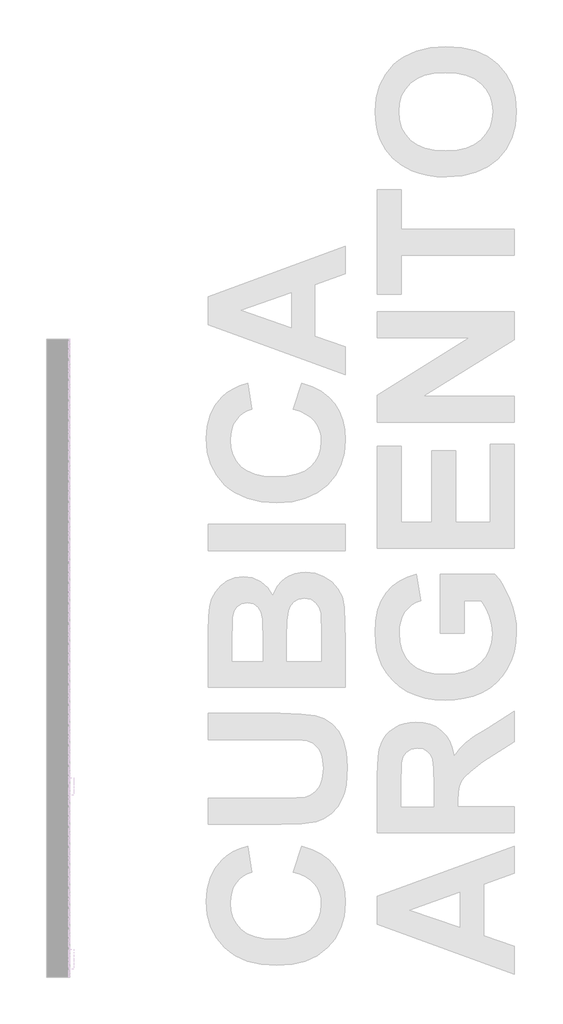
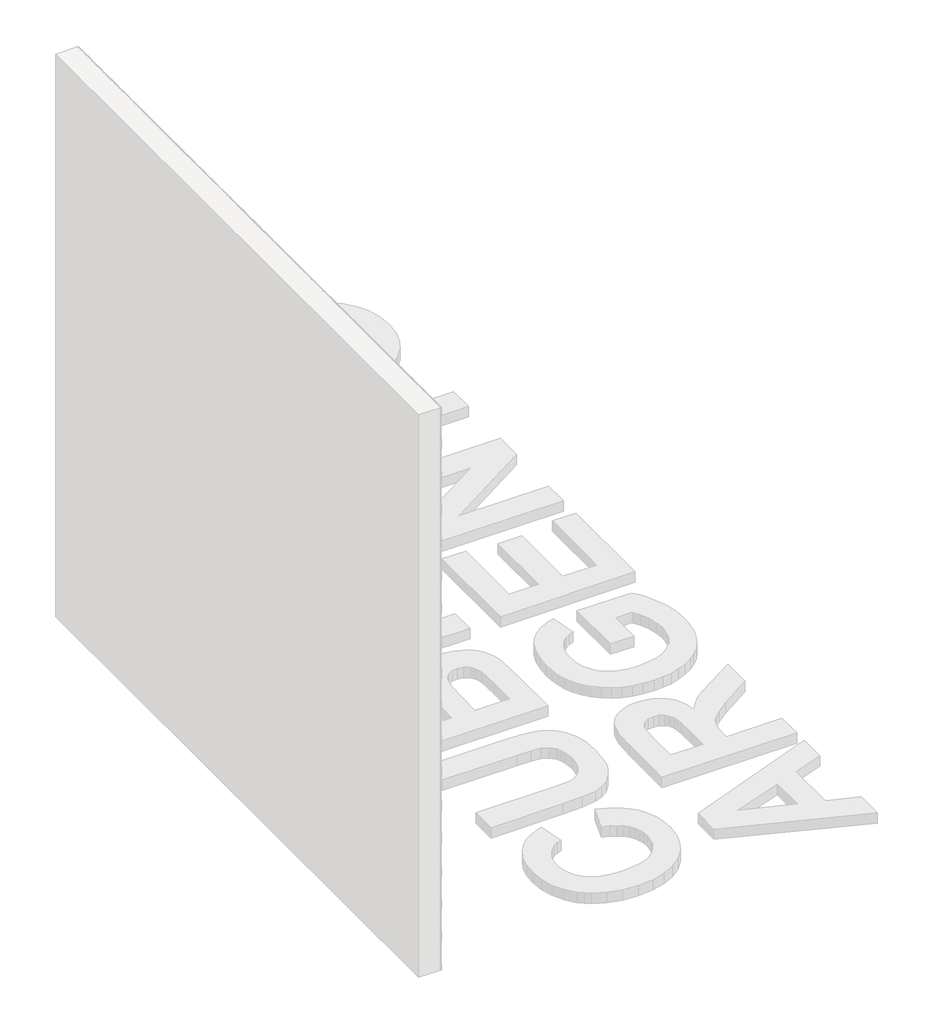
# One storey, part 18 of 121: 145 proxies.
"""IFC4 building model written with IfcOpenShell, lengths in millimetres."""

from ifc_helpers import new_model, si_unit, origin, place, context, project, spatial, transform, mapped, element, save
from components import generic_models_b2b2c5c1, generic_models_9bf73f6f, generic_models_5d175859

model = new_model("IFC4")

# Units and contexts
model_context = context("Model", 3, world=origin())
ifc_project = project(units=[si_unit("LENGTHUNIT", "METRE", prefix="MILLI")], contexts=[model_context])

# Site, building, storey
site = spatial("IfcSite", under=ifc_project)
building = spatial("IfcBuilding", under=site)
storey = spatial("IfcBuildingStorey", under=building, Name="PORTOBELLO - SHOWROOM", Elevation=0.0)

# Proxies
placement = place(None, origin())
generic_models_shape = generic_models_b2b2c5c1(model_context)
element("IfcBuildingElementProxy", 1, Name="PBSHOP - CUBICA ARGENTO 4,8X8,3 : CUBICA ARGENTO - POSIÇÃO 01", ObjectType="PBSHOP - CUBICA ARGENTO 4,8X8,3 : CUBICA ARGENTO - POSIÇÃO 01", at=placement, inside=storey, context=model_context, shape_type="MappedRepresentation", body=[
    mapped(generic_models_shape, transform((150369.5341846, -4859.1846773, 1775.984211), x_axis=(0.0, 1.0, 0.0), y_axis=(0.0, 0.0, 1.0), z_axis=(1.0, 0.0, 0.0))),
])
element("IfcBuildingElementProxy", 2, Name="PBSHOP - CUBICA ARGENTO 4,8X8,3 : CUBICA ARGENTO - POSIÇÃO 01", ObjectType="PBSHOP - CUBICA ARGENTO 4,8X8,3 : CUBICA ARGENTO - POSIÇÃO 01", at=placement, inside=storey, context=model_context, shape_type="MappedRepresentation", body=[
    mapped(generic_models_shape, transform((150369.5341846, -4768.345408, 1775.984211), x_axis=(0.0, 1.0, 0.0), y_axis=(0.0, 0.0, 1.0), z_axis=(1.0, 0.0, 0.0))),
])
element("IfcBuildingElementProxy", 3, Name="PBSHOP - CUBICA ARGENTO 4,8X8,3 : CUBICA ARGENTO - POSIÇÃO 01", ObjectType="PBSHOP - CUBICA ARGENTO 4,8X8,3 : CUBICA ARGENTO - POSIÇÃO 01", at=placement, inside=storey, context=model_context, shape_type="MappedRepresentation", body=[
    mapped(generic_models_shape, transform((150369.5341846, -4677.5061388, 1775.984211), x_axis=(0.0, 1.0, 0.0), y_axis=(0.0, 0.0, 1.0), z_axis=(1.0, 0.0, 0.0))),
])
element("IfcBuildingElementProxy", 4, Name="PBSHOP - CUBICA ARGENTO 4,8X8,3 : CUBICA ARGENTO - POSIÇÃO 01", ObjectType="PBSHOP - CUBICA ARGENTO 4,8X8,3 : CUBICA ARGENTO - POSIÇÃO 01", at=placement, inside=storey, context=model_context, shape_type="MappedRepresentation", body=[
    mapped(generic_models_shape, transform((150369.5341846, -4586.6668696, 1775.984211), x_axis=(0.0, 1.0, 0.0), y_axis=(0.0, 0.0, 1.0), z_axis=(1.0, 0.0, 0.0))),
])
element("IfcBuildingElementProxy", 5, Name="PBSHOP - CUBICA ARGENTO 4,8X8,3 : CUBICA ARGENTO - POSIÇÃO 01", ObjectType="PBSHOP - CUBICA ARGENTO 4,8X8,3 : CUBICA ARGENTO - POSIÇÃO 01", at=placement, inside=storey, context=model_context, shape_type="MappedRepresentation", body=[
    mapped(generic_models_shape, transform((150369.5341846, -4495.8276003, 1775.984211), x_axis=(0.0, 1.0, 0.0), y_axis=(0.0, 0.0, 1.0), z_axis=(1.0, 0.0, 0.0))),
])
element("IfcBuildingElementProxy", 6, Name="PBSHOP - CUBICA ARGENTO 4,8X8,3 : CUBICA ARGENTO - POSIÇÃO 01", ObjectType="PBSHOP - CUBICA ARGENTO 4,8X8,3 : CUBICA ARGENTO - POSIÇÃO 01", at=placement, inside=storey, context=model_context, shape_type="MappedRepresentation", body=[
    mapped(generic_models_shape, transform((150369.5341846, -4404.9883311, 1775.984211), x_axis=(0.0, 1.0, 0.0), y_axis=(0.0, 0.0, 1.0), z_axis=(1.0, 0.0, 0.0))),
])
element("IfcBuildingElementProxy", 7, Name="PBSHOP - CUBICA ARGENTO 4,8X8,3 : CUBICA ARGENTO - POSIÇÃO 01", ObjectType="PBSHOP - CUBICA ARGENTO 4,8X8,3 : CUBICA ARGENTO - POSIÇÃO 01", at=placement, inside=storey, context=model_context, shape_type="MappedRepresentation", body=[
    mapped(generic_models_shape, transform((150369.5341846, -4314.1490618, 1775.984211), x_axis=(0.0, 1.0, 0.0), y_axis=(0.0, 0.0, 1.0), z_axis=(1.0, 0.0, 0.0))),
])
element("IfcBuildingElementProxy", 8, Name="PBSHOP - CUBICA ARGENTO 4,8X8,3 : CUBICA ARGENTO - POSIÇÃO 01", ObjectType="PBSHOP - CUBICA ARGENTO 4,8X8,3 : CUBICA ARGENTO - POSIÇÃO 01", at=placement, inside=storey, context=model_context, shape_type="MappedRepresentation", body=[
    mapped(generic_models_shape, transform((150369.5341846, -4223.3097926, 1775.984211), x_axis=(0.0, 1.0, 0.0), y_axis=(0.0, 0.0, 1.0), z_axis=(1.0, 0.0, 0.0))),
])
element("IfcBuildingElementProxy", 9, Name="PBSHOP - CUBICA ARGENTO 4,8X8,3 : CUBICA ARGENTO - POSIÇÃO 01", ObjectType="PBSHOP - CUBICA ARGENTO 4,8X8,3 : CUBICA ARGENTO - POSIÇÃO 01", at=placement, inside=storey, context=model_context, shape_type="MappedRepresentation", body=[
    mapped(generic_models_shape, transform((150369.5341846, -4132.4705233, 1775.984211), x_axis=(0.0, 1.0, 0.0), y_axis=(0.0, 0.0, 1.0), z_axis=(1.0, 0.0, 0.0))),
])
element("IfcBuildingElementProxy", 10, Name="PBSHOP - CUBICA ARGENTO 4,8X8,3 : CUBICA ARGENTO - POSIÇÃO 01", ObjectType="PBSHOP - CUBICA ARGENTO 4,8X8,3 : CUBICA ARGENTO - POSIÇÃO 01", at=placement, inside=storey, context=model_context, shape_type="MappedRepresentation", body=[
    mapped(generic_models_shape, transform((150369.5341846, -4041.6312541, 1775.984211), x_axis=(0.0, 1.0, 0.0), y_axis=(0.0, 0.0, 1.0), z_axis=(1.0, 0.0, 0.0))),
])
element("IfcBuildingElementProxy", 11, Name="PBSHOP - CUBICA ARGENTO 4,8X8,3 : CUBICA ARGENTO - POSIÇÃO 01", ObjectType="PBSHOP - CUBICA ARGENTO 4,8X8,3 : CUBICA ARGENTO - POSIÇÃO 01", at=placement, inside=storey, context=model_context, shape_type="MappedRepresentation", body=[
    mapped(generic_models_shape, transform((150369.5341846, -4995.4435811, 1854.9188494), x_axis=(0.0, 1.0, 0.0), y_axis=(0.0, 0.0, 1.0), z_axis=(1.0, 0.0, 0.0))),
])
element("IfcBuildingElementProxy", 12, Name="PBSHOP - CUBICA ARGENTO 4,8X8,3 : CUBICA ARGENTO - POSIÇÃO 01", ObjectType="PBSHOP - CUBICA ARGENTO 4,8X8,3 : CUBICA ARGENTO - POSIÇÃO 01", at=placement, inside=storey, context=model_context, shape_type="MappedRepresentation", body=[
    mapped(generic_models_shape, transform((150369.5341846, -4904.6043119, 1854.9188494), x_axis=(0.0, 1.0, 0.0), y_axis=(0.0, 0.0, 1.0), z_axis=(1.0, 0.0, 0.0))),
])
element("IfcBuildingElementProxy", 13, Name="PBSHOP - CUBICA ARGENTO 4,8X8,3 : CUBICA ARGENTO - POSIÇÃO 01", ObjectType="PBSHOP - CUBICA ARGENTO 4,8X8,3 : CUBICA ARGENTO - POSIÇÃO 01", at=placement, inside=storey, context=model_context, shape_type="MappedRepresentation", body=[
    mapped(generic_models_shape, transform((150369.5341846, -4813.7650427, 1854.9188494), x_axis=(0.0, 1.0, 0.0), y_axis=(0.0, 0.0, 1.0), z_axis=(1.0, 0.0, 0.0))),
])
element("IfcBuildingElementProxy", 14, Name="PBSHOP - CUBICA ARGENTO 4,8X8,3 : CUBICA ARGENTO - POSIÇÃO 01", ObjectType="PBSHOP - CUBICA ARGENTO 4,8X8,3 : CUBICA ARGENTO - POSIÇÃO 01", at=placement, inside=storey, context=model_context, shape_type="MappedRepresentation", body=[
    mapped(generic_models_shape, transform((150369.5341846, -4722.9257734, 1854.9188494), x_axis=(0.0, 1.0, 0.0), y_axis=(0.0, 0.0, 1.0), z_axis=(1.0, 0.0, 0.0))),
])
element("IfcBuildingElementProxy", 15, Name="PBSHOP - CUBICA ARGENTO 4,8X8,3 : CUBICA ARGENTO - POSIÇÃO 01", ObjectType="PBSHOP - CUBICA ARGENTO 4,8X8,3 : CUBICA ARGENTO - POSIÇÃO 01", at=placement, inside=storey, context=model_context, shape_type="MappedRepresentation", body=[
    mapped(generic_models_shape, transform((150369.5341846, -4632.0865042, 1854.9188494), x_axis=(0.0, 1.0, 0.0), y_axis=(0.0, 0.0, 1.0), z_axis=(1.0, 0.0, 0.0))),
])
element("IfcBuildingElementProxy", 16, Name="PBSHOP - CUBICA ARGENTO 4,8X8,3 : CUBICA ARGENTO - POSIÇÃO 01", ObjectType="PBSHOP - CUBICA ARGENTO 4,8X8,3 : CUBICA ARGENTO - POSIÇÃO 01", at=placement, inside=storey, context=model_context, shape_type="MappedRepresentation", body=[
    mapped(generic_models_shape, transform((150369.5341846, -4541.2472349, 1854.9188494), x_axis=(0.0, 1.0, 0.0), y_axis=(0.0, 0.0, 1.0), z_axis=(1.0, 0.0, 0.0))),
])
element("IfcBuildingElementProxy", 17, Name="PBSHOP - CUBICA ARGENTO 4,8X8,3 : CUBICA ARGENTO - POSIÇÃO 01", ObjectType="PBSHOP - CUBICA ARGENTO 4,8X8,3 : CUBICA ARGENTO - POSIÇÃO 01", at=placement, inside=storey, context=model_context, shape_type="MappedRepresentation", body=[
    mapped(generic_models_shape, transform((150369.5341846, -4450.4079657, 1854.9188494), x_axis=(0.0, 1.0, 0.0), y_axis=(0.0, 0.0, 1.0), z_axis=(1.0, 0.0, 0.0))),
])
element("IfcBuildingElementProxy", 18, Name="PBSHOP - CUBICA ARGENTO 4,8X8,3 : CUBICA ARGENTO - POSIÇÃO 01", ObjectType="PBSHOP - CUBICA ARGENTO 4,8X8,3 : CUBICA ARGENTO - POSIÇÃO 01", at=placement, inside=storey, context=model_context, shape_type="MappedRepresentation", body=[
    mapped(generic_models_shape, transform((150369.5341846, -4359.5686964, 1854.9188494), x_axis=(0.0, 1.0, 0.0), y_axis=(0.0, 0.0, 1.0), z_axis=(1.0, 0.0, 0.0))),
])
element("IfcBuildingElementProxy", 19, Name="PBSHOP - CUBICA ARGENTO 4,8X8,3 : CUBICA ARGENTO - POSIÇÃO 01", ObjectType="PBSHOP - CUBICA ARGENTO 4,8X8,3 : CUBICA ARGENTO - POSIÇÃO 01", at=placement, inside=storey, context=model_context, shape_type="MappedRepresentation", body=[
    mapped(generic_models_shape, transform((150369.5341846, -4268.7294272, 1854.9188494), x_axis=(0.0, 1.0, 0.0), y_axis=(0.0, 0.0, 1.0), z_axis=(1.0, 0.0, 0.0))),
])
element("IfcBuildingElementProxy", 20, Name="PBSHOP - CUBICA ARGENTO 4,8X8,3 : CUBICA ARGENTO - POSIÇÃO 01", ObjectType="PBSHOP - CUBICA ARGENTO 4,8X8,3 : CUBICA ARGENTO - POSIÇÃO 01", at=placement, inside=storey, context=model_context, shape_type="MappedRepresentation", body=[
    mapped(generic_models_shape, transform((150369.5341846, -4177.890158, 1854.9188494), x_axis=(0.0, 1.0, 0.0), y_axis=(0.0, 0.0, 1.0), z_axis=(1.0, 0.0, 0.0))),
])
element("IfcBuildingElementProxy", 21, Name="PBSHOP - CUBICA ARGENTO 4,8X8,3 : CUBICA ARGENTO - POSIÇÃO 01", ObjectType="PBSHOP - CUBICA ARGENTO 4,8X8,3 : CUBICA ARGENTO - POSIÇÃO 01", at=placement, inside=storey, context=model_context, shape_type="MappedRepresentation", body=[
    mapped(generic_models_shape, transform((150369.5341846, -4087.0508887, 1854.9188494), x_axis=(0.0, 1.0, 0.0), y_axis=(0.0, 0.0, 1.0), z_axis=(1.0, 0.0, 0.0))),
])
element("IfcBuildingElementProxy", 22, Name="PBSHOP - CUBICA ARGENTO 4,8X8,3 : CUBICA ARGENTO - POSIÇÃO 01", ObjectType="PBSHOP - CUBICA ARGENTO 4,8X8,3 : CUBICA ARGENTO - POSIÇÃO 01", at=placement, inside=storey, context=model_context, shape_type="MappedRepresentation", body=[
    mapped(generic_models_shape, transform((150369.5341846, -4950.0239465, 1933.8534878), x_axis=(0.0, 1.0, 0.0), y_axis=(0.0, 0.0, 1.0), z_axis=(1.0, 0.0, 0.0))),
])
element("IfcBuildingElementProxy", 23, Name="PBSHOP - CUBICA ARGENTO 4,8X8,3 : CUBICA ARGENTO - POSIÇÃO 01", ObjectType="PBSHOP - CUBICA ARGENTO 4,8X8,3 : CUBICA ARGENTO - POSIÇÃO 01", at=placement, inside=storey, context=model_context, shape_type="MappedRepresentation", body=[
    mapped(generic_models_shape, transform((150369.5341846, -4859.1846773, 1933.8534878), x_axis=(0.0, 1.0, 0.0), y_axis=(0.0, 0.0, 1.0), z_axis=(1.0, 0.0, 0.0))),
])
element("IfcBuildingElementProxy", 24, Name="PBSHOP - CUBICA ARGENTO 4,8X8,3 : CUBICA ARGENTO - POSIÇÃO 01", ObjectType="PBSHOP - CUBICA ARGENTO 4,8X8,3 : CUBICA ARGENTO - POSIÇÃO 01", at=placement, inside=storey, context=model_context, shape_type="MappedRepresentation", body=[
    mapped(generic_models_shape, transform((150369.5341846, -4768.345408, 1933.8534878), x_axis=(0.0, 1.0, 0.0), y_axis=(0.0, 0.0, 1.0), z_axis=(1.0, 0.0, 0.0))),
])
element("IfcBuildingElementProxy", 25, Name="PBSHOP - CUBICA ARGENTO 4,8X8,3 : CUBICA ARGENTO - POSIÇÃO 01", ObjectType="PBSHOP - CUBICA ARGENTO 4,8X8,3 : CUBICA ARGENTO - POSIÇÃO 01", at=placement, inside=storey, context=model_context, shape_type="MappedRepresentation", body=[
    mapped(generic_models_shape, transform((150369.5341846, -4677.5061388, 1933.8534878), x_axis=(0.0, 1.0, 0.0), y_axis=(0.0, 0.0, 1.0), z_axis=(1.0, 0.0, 0.0))),
])
element("IfcBuildingElementProxy", 26, Name="PBSHOP - CUBICA ARGENTO 4,8X8,3 : CUBICA ARGENTO - POSIÇÃO 01", ObjectType="PBSHOP - CUBICA ARGENTO 4,8X8,3 : CUBICA ARGENTO - POSIÇÃO 01", at=placement, inside=storey, context=model_context, shape_type="MappedRepresentation", body=[
    mapped(generic_models_shape, transform((150369.5341846, -4586.6668696, 1933.8534878), x_axis=(0.0, 1.0, 0.0), y_axis=(0.0, 0.0, 1.0), z_axis=(1.0, 0.0, 0.0))),
])
element("IfcBuildingElementProxy", 27, Name="PBSHOP - CUBICA ARGENTO 4,8X8,3 : CUBICA ARGENTO - POSIÇÃO 01", ObjectType="PBSHOP - CUBICA ARGENTO 4,8X8,3 : CUBICA ARGENTO - POSIÇÃO 01", at=placement, inside=storey, context=model_context, shape_type="MappedRepresentation", body=[
    mapped(generic_models_shape, transform((150369.5341846, -4495.8276003, 1933.8534878), x_axis=(0.0, 1.0, 0.0), y_axis=(0.0, 0.0, 1.0), z_axis=(1.0, 0.0, 0.0))),
])
element("IfcBuildingElementProxy", 28, Name="PBSHOP - CUBICA ARGENTO 4,8X8,3 : CUBICA ARGENTO - POSIÇÃO 01", ObjectType="PBSHOP - CUBICA ARGENTO 4,8X8,3 : CUBICA ARGENTO - POSIÇÃO 01", at=placement, inside=storey, context=model_context, shape_type="MappedRepresentation", body=[
    mapped(generic_models_shape, transform((150369.5341846, -4404.9883311, 1933.8534878), x_axis=(0.0, 1.0, 0.0), y_axis=(0.0, 0.0, 1.0), z_axis=(1.0, 0.0, 0.0))),
])
element("IfcBuildingElementProxy", 29, Name="PBSHOP - CUBICA ARGENTO 4,8X8,3 : CUBICA ARGENTO - POSIÇÃO 01", ObjectType="PBSHOP - CUBICA ARGENTO 4,8X8,3 : CUBICA ARGENTO - POSIÇÃO 01", at=placement, inside=storey, context=model_context, shape_type="MappedRepresentation", body=[
    mapped(generic_models_shape, transform((150369.5341846, -4314.1490618, 1933.8534878), x_axis=(0.0, 1.0, 0.0), y_axis=(0.0, 0.0, 1.0), z_axis=(1.0, 0.0, 0.0))),
])
element("IfcBuildingElementProxy", 30, Name="PBSHOP - CUBICA ARGENTO 4,8X8,3 : CUBICA ARGENTO - POSIÇÃO 01", ObjectType="PBSHOP - CUBICA ARGENTO 4,8X8,3 : CUBICA ARGENTO - POSIÇÃO 01", at=placement, inside=storey, context=model_context, shape_type="MappedRepresentation", body=[
    mapped(generic_models_shape, transform((150369.5341846, -4223.3097926, 1933.8534878), x_axis=(0.0, 1.0, 0.0), y_axis=(0.0, 0.0, 1.0), z_axis=(1.0, 0.0, 0.0))),
])
element("IfcBuildingElementProxy", 31, Name="PBSHOP - CUBICA ARGENTO 4,8X8,3 : CUBICA ARGENTO - POSIÇÃO 01", ObjectType="PBSHOP - CUBICA ARGENTO 4,8X8,3 : CUBICA ARGENTO - POSIÇÃO 01", at=placement, inside=storey, context=model_context, shape_type="MappedRepresentation", body=[
    mapped(generic_models_shape, transform((150369.5341846, -4132.4705233, 1933.8534878), x_axis=(0.0, 1.0, 0.0), y_axis=(0.0, 0.0, 1.0), z_axis=(1.0, 0.0, 0.0))),
])
element("IfcBuildingElementProxy", 32, Name="PBSHOP - CUBICA ARGENTO 4,8X8,3 : CUBICA ARGENTO - POSIÇÃO 01", ObjectType="PBSHOP - CUBICA ARGENTO 4,8X8,3 : CUBICA ARGENTO - POSIÇÃO 01", at=placement, inside=storey, context=model_context, shape_type="MappedRepresentation", body=[
    mapped(generic_models_shape, transform((150369.5341846, -4041.6312541, 1933.8534878), x_axis=(0.0, 1.0, 0.0), y_axis=(0.0, 0.0, 1.0), z_axis=(1.0, 0.0, 0.0))),
])
element("IfcBuildingElementProxy", 33, Name="PBSHOP - CUBICA ARGENTO 4,8X8,3 : CUBICA ARGENTO - POSIÇÃO 01", ObjectType="PBSHOP - CUBICA ARGENTO 4,8X8,3 : CUBICA ARGENTO - POSIÇÃO 01", at=placement, inside=storey, context=model_context, shape_type="MappedRepresentation", body=[
    mapped(generic_models_shape, transform((150369.5341846, -4995.4435811, 2012.7881262), x_axis=(0.0, 1.0, 0.0), y_axis=(0.0, 0.0, 1.0), z_axis=(1.0, 0.0, 0.0))),
])
element("IfcBuildingElementProxy", 34, Name="PBSHOP - CUBICA ARGENTO 4,8X8,3 : CUBICA ARGENTO - POSIÇÃO 01", ObjectType="PBSHOP - CUBICA ARGENTO 4,8X8,3 : CUBICA ARGENTO - POSIÇÃO 01", at=placement, inside=storey, context=model_context, shape_type="MappedRepresentation", body=[
    mapped(generic_models_shape, transform((150369.5341846, -4904.6043119, 2012.7881262), x_axis=(0.0, 1.0, 0.0), y_axis=(0.0, 0.0, 1.0), z_axis=(1.0, 0.0, 0.0))),
])
element("IfcBuildingElementProxy", 35, Name="PBSHOP - CUBICA ARGENTO 4,8X8,3 : CUBICA ARGENTO - POSIÇÃO 01", ObjectType="PBSHOP - CUBICA ARGENTO 4,8X8,3 : CUBICA ARGENTO - POSIÇÃO 01", at=placement, inside=storey, context=model_context, shape_type="MappedRepresentation", body=[
    mapped(generic_models_shape, transform((150369.5341846, -4813.7650427, 2012.7881262), x_axis=(0.0, 1.0, 0.0), y_axis=(0.0, 0.0, 1.0), z_axis=(1.0, 0.0, 0.0))),
])
element("IfcBuildingElementProxy", 36, Name="PBSHOP - CUBICA ARGENTO 4,8X8,3 : CUBICA ARGENTO - POSIÇÃO 01", ObjectType="PBSHOP - CUBICA ARGENTO 4,8X8,3 : CUBICA ARGENTO - POSIÇÃO 01", at=placement, inside=storey, context=model_context, shape_type="MappedRepresentation", body=[
    mapped(generic_models_shape, transform((150369.5341846, -4722.9257734, 2012.7881262), x_axis=(0.0, 1.0, 0.0), y_axis=(0.0, 0.0, 1.0), z_axis=(1.0, 0.0, 0.0))),
])
element("IfcBuildingElementProxy", 37, Name="PBSHOP - CUBICA ARGENTO 4,8X8,3 : CUBICA ARGENTO - POSIÇÃO 01", ObjectType="PBSHOP - CUBICA ARGENTO 4,8X8,3 : CUBICA ARGENTO - POSIÇÃO 01", at=placement, inside=storey, context=model_context, shape_type="MappedRepresentation", body=[
    mapped(generic_models_shape, transform((150369.5341846, -4632.0865042, 2012.7881262), x_axis=(0.0, 1.0, 0.0), y_axis=(0.0, 0.0, 1.0), z_axis=(1.0, 0.0, 0.0))),
])
element("IfcBuildingElementProxy", 38, Name="PBSHOP - CUBICA ARGENTO 4,8X8,3 : CUBICA ARGENTO - POSIÇÃO 01", ObjectType="PBSHOP - CUBICA ARGENTO 4,8X8,3 : CUBICA ARGENTO - POSIÇÃO 01", at=placement, inside=storey, context=model_context, shape_type="MappedRepresentation", body=[
    mapped(generic_models_shape, transform((150369.5341846, -4541.2472349, 2012.7881262), x_axis=(0.0, 1.0, 0.0), y_axis=(0.0, 0.0, 1.0), z_axis=(1.0, 0.0, 0.0))),
])
element("IfcBuildingElementProxy", 39, Name="PBSHOP - CUBICA ARGENTO 4,8X8,3 : CUBICA ARGENTO - POSIÇÃO 01", ObjectType="PBSHOP - CUBICA ARGENTO 4,8X8,3 : CUBICA ARGENTO - POSIÇÃO 01", at=placement, inside=storey, context=model_context, shape_type="MappedRepresentation", body=[
    mapped(generic_models_shape, transform((150369.5341846, -4450.4079657, 2012.7881262), x_axis=(0.0, 1.0, 0.0), y_axis=(0.0, 0.0, 1.0), z_axis=(1.0, 0.0, 0.0))),
])
element("IfcBuildingElementProxy", 40, Name="PBSHOP - CUBICA ARGENTO 4,8X8,3 : CUBICA ARGENTO - POSIÇÃO 01", ObjectType="PBSHOP - CUBICA ARGENTO 4,8X8,3 : CUBICA ARGENTO - POSIÇÃO 01", at=placement, inside=storey, context=model_context, shape_type="MappedRepresentation", body=[
    mapped(generic_models_shape, transform((150369.5341846, -4359.5686964, 2012.7881262), x_axis=(0.0, 1.0, 0.0), y_axis=(0.0, 0.0, 1.0), z_axis=(1.0, 0.0, 0.0))),
])
element("IfcBuildingElementProxy", 41, Name="PBSHOP - CUBICA ARGENTO 4,8X8,3 : CUBICA ARGENTO - POSIÇÃO 01", ObjectType="PBSHOP - CUBICA ARGENTO 4,8X8,3 : CUBICA ARGENTO - POSIÇÃO 01", at=placement, inside=storey, context=model_context, shape_type="MappedRepresentation", body=[
    mapped(generic_models_shape, transform((150369.5341846, -4268.7294272, 2012.7881262), x_axis=(0.0, 1.0, 0.0), y_axis=(0.0, 0.0, 1.0), z_axis=(1.0, 0.0, 0.0))),
])
element("IfcBuildingElementProxy", 42, Name="PBSHOP - CUBICA ARGENTO 4,8X8,3 : CUBICA ARGENTO - POSIÇÃO 01", ObjectType="PBSHOP - CUBICA ARGENTO 4,8X8,3 : CUBICA ARGENTO - POSIÇÃO 01", at=placement, inside=storey, context=model_context, shape_type="MappedRepresentation", body=[
    mapped(generic_models_shape, transform((150369.5341846, -4177.890158, 2012.7881262), x_axis=(0.0, 1.0, 0.0), y_axis=(0.0, 0.0, 1.0), z_axis=(1.0, 0.0, 0.0))),
])
element("IfcBuildingElementProxy", 43, Name="PBSHOP - CUBICA ARGENTO 4,8X8,3 : CUBICA ARGENTO - POSIÇÃO 01", ObjectType="PBSHOP - CUBICA ARGENTO 4,8X8,3 : CUBICA ARGENTO - POSIÇÃO 01", at=placement, inside=storey, context=model_context, shape_type="MappedRepresentation", body=[
    mapped(generic_models_shape, transform((150369.5341846, -4087.0508887, 2012.7881262), x_axis=(0.0, 1.0, 0.0), y_axis=(0.0, 0.0, 1.0), z_axis=(1.0, 0.0, 0.0))),
])
element("IfcBuildingElementProxy", 44, Name="PBSHOP - CUBICA ARGENTO 4,8X8,3 : CUBICA ARGENTO - POSIÇÃO 01", ObjectType="PBSHOP - CUBICA ARGENTO 4,8X8,3 : CUBICA ARGENTO - POSIÇÃO 01", at=placement, inside=storey, context=model_context, shape_type="MappedRepresentation", body=[
    mapped(generic_models_shape, transform((150369.5341846, -4950.0239465, 2091.7227645), x_axis=(0.0, 1.0, 0.0), y_axis=(0.0, 0.0, 1.0), z_axis=(1.0, 0.0, 0.0))),
])
element("IfcBuildingElementProxy", 45, Name="PBSHOP - CUBICA ARGENTO 4,8X8,3 : CUBICA ARGENTO - POSIÇÃO 01", ObjectType="PBSHOP - CUBICA ARGENTO 4,8X8,3 : CUBICA ARGENTO - POSIÇÃO 01", at=placement, inside=storey, context=model_context, shape_type="MappedRepresentation", body=[
    mapped(generic_models_shape, transform((150369.5341846, -4859.1846773, 2091.7227645), x_axis=(0.0, 1.0, 0.0), y_axis=(0.0, 0.0, 1.0), z_axis=(1.0, 0.0, 0.0))),
])
element("IfcBuildingElementProxy", 46, Name="PBSHOP - CUBICA ARGENTO 4,8X8,3 : CUBICA ARGENTO - POSIÇÃO 01", ObjectType="PBSHOP - CUBICA ARGENTO 4,8X8,3 : CUBICA ARGENTO - POSIÇÃO 01", at=placement, inside=storey, context=model_context, shape_type="MappedRepresentation", body=[
    mapped(generic_models_shape, transform((150369.5341846, -4768.345408, 2091.7227645), x_axis=(0.0, 1.0, 0.0), y_axis=(0.0, 0.0, 1.0), z_axis=(1.0, 0.0, 0.0))),
])
element("IfcBuildingElementProxy", 47, Name="PBSHOP - CUBICA ARGENTO 4,8X8,3 : CUBICA ARGENTO - POSIÇÃO 01", ObjectType="PBSHOP - CUBICA ARGENTO 4,8X8,3 : CUBICA ARGENTO - POSIÇÃO 01", at=placement, inside=storey, context=model_context, shape_type="MappedRepresentation", body=[
    mapped(generic_models_shape, transform((150369.5341846, -4677.5061388, 2091.7227645), x_axis=(0.0, 1.0, 0.0), y_axis=(0.0, 0.0, 1.0), z_axis=(1.0, 0.0, 0.0))),
])
element("IfcBuildingElementProxy", 48, Name="PBSHOP - CUBICA ARGENTO 4,8X8,3 : CUBICA ARGENTO - POSIÇÃO 01", ObjectType="PBSHOP - CUBICA ARGENTO 4,8X8,3 : CUBICA ARGENTO - POSIÇÃO 01", at=placement, inside=storey, context=model_context, shape_type="MappedRepresentation", body=[
    mapped(generic_models_shape, transform((150369.5341846, -4586.6668696, 2091.7227645), x_axis=(0.0, 1.0, 0.0), y_axis=(0.0, 0.0, 1.0), z_axis=(1.0, 0.0, 0.0))),
])
element("IfcBuildingElementProxy", 49, Name="PBSHOP - CUBICA ARGENTO 4,8X8,3 : CUBICA ARGENTO - POSIÇÃO 01", ObjectType="PBSHOP - CUBICA ARGENTO 4,8X8,3 : CUBICA ARGENTO - POSIÇÃO 01", at=placement, inside=storey, context=model_context, shape_type="MappedRepresentation", body=[
    mapped(generic_models_shape, transform((150369.5341846, -4495.8276003, 2091.7227645), x_axis=(0.0, 1.0, 0.0), y_axis=(0.0, 0.0, 1.0), z_axis=(1.0, 0.0, 0.0))),
])
element("IfcBuildingElementProxy", 50, Name="PBSHOP - CUBICA ARGENTO 4,8X8,3 : CUBICA ARGENTO - POSIÇÃO 01", ObjectType="PBSHOP - CUBICA ARGENTO 4,8X8,3 : CUBICA ARGENTO - POSIÇÃO 01", at=placement, inside=storey, context=model_context, shape_type="MappedRepresentation", body=[
    mapped(generic_models_shape, transform((150369.5341846, -4404.9883311, 2091.7227645), x_axis=(0.0, 1.0, 0.0), y_axis=(0.0, 0.0, 1.0), z_axis=(1.0, 0.0, 0.0))),
])
element("IfcBuildingElementProxy", 51, Name="PBSHOP - CUBICA ARGENTO 4,8X8,3 : CUBICA ARGENTO - POSIÇÃO 01", ObjectType="PBSHOP - CUBICA ARGENTO 4,8X8,3 : CUBICA ARGENTO - POSIÇÃO 01", at=placement, inside=storey, context=model_context, shape_type="MappedRepresentation", body=[
    mapped(generic_models_shape, transform((150369.5341846, -4314.1490618, 2091.7227645), x_axis=(0.0, 1.0, 0.0), y_axis=(0.0, 0.0, 1.0), z_axis=(1.0, 0.0, 0.0))),
])
generic_models_2_shape = generic_models_9bf73f6f(model_context)
element("IfcBuildingElementProxy", 52, Name="PBSHOP - CUBICA ARGENTO 4,8X8,3 : CUBICA ARGENTO - POSIÇÃO 03", ObjectType="PBSHOP - CUBICA ARGENTO 4,8X8,3 : CUBICA ARGENTO - POSIÇÃO 03", at=placement, inside=storey, context=model_context, shape_type="MappedRepresentation", body=[
    mapped(generic_models_2_shape, transform((150369.5341846, -4972.7316047, 1736.4756814), x_axis=(0.0, 1.0, 0.0), y_axis=(0.0, 0.0, 1.0), z_axis=(1.0, 0.0, 0.0))),
])
element("IfcBuildingElementProxy", 53, Name="PBSHOP - CUBICA ARGENTO 4,8X8,3 : CUBICA ARGENTO - POSIÇÃO 03", ObjectType="PBSHOP - CUBICA ARGENTO 4,8X8,3 : CUBICA ARGENTO - POSIÇÃO 03", at=placement, inside=storey, context=model_context, shape_type="MappedRepresentation", body=[
    mapped(generic_models_2_shape, transform((150369.5341846, -4881.8923354, 1736.4756814), x_axis=(0.0, 1.0, 0.0), y_axis=(0.0, 0.0, 1.0), z_axis=(1.0, 0.0, 0.0))),
])
element("IfcBuildingElementProxy", 54, Name="PBSHOP - CUBICA ARGENTO 4,8X8,3 : CUBICA ARGENTO - POSIÇÃO 03", ObjectType="PBSHOP - CUBICA ARGENTO 4,8X8,3 : CUBICA ARGENTO - POSIÇÃO 03", at=placement, inside=storey, context=model_context, shape_type="MappedRepresentation", body=[
    mapped(generic_models_2_shape, transform((150369.5341846, -4791.0530662, 1736.4756814), x_axis=(0.0, 1.0, 0.0), y_axis=(0.0, 0.0, 1.0), z_axis=(1.0, 0.0, 0.0))),
])
element("IfcBuildingElementProxy", 55, Name="PBSHOP - CUBICA ARGENTO 4,8X8,3 : CUBICA ARGENTO - POSIÇÃO 03", ObjectType="PBSHOP - CUBICA ARGENTO 4,8X8,3 : CUBICA ARGENTO - POSIÇÃO 03", at=placement, inside=storey, context=model_context, shape_type="MappedRepresentation", body=[
    mapped(generic_models_2_shape, transform((150369.5341846, -4700.2137969, 1736.4756814), x_axis=(0.0, 1.0, 0.0), y_axis=(0.0, 0.0, 1.0), z_axis=(1.0, 0.0, 0.0))),
])
element("IfcBuildingElementProxy", 56, Name="PBSHOP - CUBICA ARGENTO 4,8X8,3 : CUBICA ARGENTO - POSIÇÃO 03", ObjectType="PBSHOP - CUBICA ARGENTO 4,8X8,3 : CUBICA ARGENTO - POSIÇÃO 03", at=placement, inside=storey, context=model_context, shape_type="MappedRepresentation", body=[
    mapped(generic_models_2_shape, transform((150369.5341846, -4609.3745277, 1736.4756814), x_axis=(0.0, 1.0, 0.0), y_axis=(0.0, 0.0, 1.0), z_axis=(1.0, 0.0, 0.0))),
])
element("IfcBuildingElementProxy", 57, Name="PBSHOP - CUBICA ARGENTO 4,8X8,3 : CUBICA ARGENTO - POSIÇÃO 03", ObjectType="PBSHOP - CUBICA ARGENTO 4,8X8,3 : CUBICA ARGENTO - POSIÇÃO 03", at=placement, inside=storey, context=model_context, shape_type="MappedRepresentation", body=[
    mapped(generic_models_2_shape, transform((150369.5341846, -4518.5352585, 1736.4756814), x_axis=(0.0, 1.0, 0.0), y_axis=(0.0, 0.0, 1.0), z_axis=(1.0, 0.0, 0.0))),
])
element("IfcBuildingElementProxy", 58, Name="PBSHOP - CUBICA ARGENTO 4,8X8,3 : CUBICA ARGENTO - POSIÇÃO 03", ObjectType="PBSHOP - CUBICA ARGENTO 4,8X8,3 : CUBICA ARGENTO - POSIÇÃO 03", at=placement, inside=storey, context=model_context, shape_type="MappedRepresentation", body=[
    mapped(generic_models_2_shape, transform((150369.5341846, -4427.6959892, 1736.4756814), x_axis=(0.0, 1.0, 0.0), y_axis=(0.0, 0.0, 1.0), z_axis=(1.0, 0.0, 0.0))),
])
element("IfcBuildingElementProxy", 59, Name="PBSHOP - CUBICA ARGENTO 4,8X8,3 : CUBICA ARGENTO - POSIÇÃO 03", ObjectType="PBSHOP - CUBICA ARGENTO 4,8X8,3 : CUBICA ARGENTO - POSIÇÃO 03", at=placement, inside=storey, context=model_context, shape_type="MappedRepresentation", body=[
    mapped(generic_models_2_shape, transform((150369.5341846, -4336.85672, 1736.4756814), x_axis=(0.0, 1.0, 0.0), y_axis=(0.0, 0.0, 1.0), z_axis=(1.0, 0.0, 0.0))),
])
element("IfcBuildingElementProxy", 60, Name="PBSHOP - CUBICA ARGENTO 4,8X8,3 : CUBICA ARGENTO - POSIÇÃO 03", ObjectType="PBSHOP - CUBICA ARGENTO 4,8X8,3 : CUBICA ARGENTO - POSIÇÃO 03", at=placement, inside=storey, context=model_context, shape_type="MappedRepresentation", body=[
    mapped(generic_models_2_shape, transform((150369.5341846, -4246.0174507, 1736.4756814), x_axis=(0.0, 1.0, 0.0), y_axis=(0.0, 0.0, 1.0), z_axis=(1.0, 0.0, 0.0))),
])
element("IfcBuildingElementProxy", 61, Name="PBSHOP - CUBICA ARGENTO 4,8X8,3 : CUBICA ARGENTO - POSIÇÃO 03", ObjectType="PBSHOP - CUBICA ARGENTO 4,8X8,3 : CUBICA ARGENTO - POSIÇÃO 03", at=placement, inside=storey, context=model_context, shape_type="MappedRepresentation", body=[
    mapped(generic_models_2_shape, transform((150369.5341846, -4155.1781815, 1736.4756814), x_axis=(0.0, 1.0, 0.0), y_axis=(0.0, 0.0, 1.0), z_axis=(1.0, 0.0, 0.0))),
])
element("IfcBuildingElementProxy", 62, Name="PBSHOP - CUBICA ARGENTO 4,8X8,3 : CUBICA ARGENTO - POSIÇÃO 03", ObjectType="PBSHOP - CUBICA ARGENTO 4,8X8,3 : CUBICA ARGENTO - POSIÇÃO 03", at=placement, inside=storey, context=model_context, shape_type="MappedRepresentation", body=[
    mapped(generic_models_2_shape, transform((150369.5341846, -4064.3389122, 1736.4756814), x_axis=(0.0, 1.0, 0.0), y_axis=(0.0, 0.0, 1.0), z_axis=(1.0, 0.0, 0.0))),
])
element("IfcBuildingElementProxy", 63, Name="PBSHOP - CUBICA ARGENTO 4,8X8,3 : CUBICA ARGENTO - POSIÇÃO 03", ObjectType="PBSHOP - CUBICA ARGENTO 4,8X8,3 : CUBICA ARGENTO - POSIÇÃO 03", at=placement, inside=storey, context=model_context, shape_type="MappedRepresentation", body=[
    mapped(generic_models_2_shape, transform((150369.5341846, -4927.3119701, 1815.4103198), x_axis=(0.0, 1.0, 0.0), y_axis=(0.0, 0.0, 1.0), z_axis=(1.0, 0.0, 0.0))),
])
element("IfcBuildingElementProxy", 64, Name="PBSHOP - CUBICA ARGENTO 4,8X8,3 : CUBICA ARGENTO - POSIÇÃO 03", ObjectType="PBSHOP - CUBICA ARGENTO 4,8X8,3 : CUBICA ARGENTO - POSIÇÃO 03", at=placement, inside=storey, context=model_context, shape_type="MappedRepresentation", body=[
    mapped(generic_models_2_shape, transform((150369.5341846, -4836.4727008, 1815.4103198), x_axis=(0.0, 1.0, 0.0), y_axis=(0.0, 0.0, 1.0), z_axis=(1.0, 0.0, 0.0))),
])
element("IfcBuildingElementProxy", 65, Name="PBSHOP - CUBICA ARGENTO 4,8X8,3 : CUBICA ARGENTO - POSIÇÃO 03", ObjectType="PBSHOP - CUBICA ARGENTO 4,8X8,3 : CUBICA ARGENTO - POSIÇÃO 03", at=placement, inside=storey, context=model_context, shape_type="MappedRepresentation", body=[
    mapped(generic_models_2_shape, transform((150369.5341846, -4745.6334316, 1815.4103198), x_axis=(0.0, 1.0, 0.0), y_axis=(0.0, 0.0, 1.0), z_axis=(1.0, 0.0, 0.0))),
])
element("IfcBuildingElementProxy", 66, Name="PBSHOP - CUBICA ARGENTO 4,8X8,3 : CUBICA ARGENTO - POSIÇÃO 03", ObjectType="PBSHOP - CUBICA ARGENTO 4,8X8,3 : CUBICA ARGENTO - POSIÇÃO 03", at=placement, inside=storey, context=model_context, shape_type="MappedRepresentation", body=[
    mapped(generic_models_2_shape, transform((150369.5341846, -4654.7941623, 1815.4103198), x_axis=(0.0, 1.0, 0.0), y_axis=(0.0, 0.0, 1.0), z_axis=(1.0, 0.0, 0.0))),
])
element("IfcBuildingElementProxy", 67, Name="PBSHOP - CUBICA ARGENTO 4,8X8,3 : CUBICA ARGENTO - POSIÇÃO 03", ObjectType="PBSHOP - CUBICA ARGENTO 4,8X8,3 : CUBICA ARGENTO - POSIÇÃO 03", at=placement, inside=storey, context=model_context, shape_type="MappedRepresentation", body=[
    mapped(generic_models_2_shape, transform((150369.5341846, -4563.9548931, 1815.4103198), x_axis=(0.0, 1.0, 0.0), y_axis=(0.0, 0.0, 1.0), z_axis=(1.0, 0.0, 0.0))),
])
element("IfcBuildingElementProxy", 68, Name="PBSHOP - CUBICA ARGENTO 4,8X8,3 : CUBICA ARGENTO - POSIÇÃO 03", ObjectType="PBSHOP - CUBICA ARGENTO 4,8X8,3 : CUBICA ARGENTO - POSIÇÃO 03", at=placement, inside=storey, context=model_context, shape_type="MappedRepresentation", body=[
    mapped(generic_models_2_shape, transform((150369.5341846, -4473.1156238, 1815.4103198), x_axis=(0.0, 1.0, 0.0), y_axis=(0.0, 0.0, 1.0), z_axis=(1.0, 0.0, 0.0))),
])
element("IfcBuildingElementProxy", 69, Name="PBSHOP - CUBICA ARGENTO 4,8X8,3 : CUBICA ARGENTO - POSIÇÃO 03", ObjectType="PBSHOP - CUBICA ARGENTO 4,8X8,3 : CUBICA ARGENTO - POSIÇÃO 03", at=placement, inside=storey, context=model_context, shape_type="MappedRepresentation", body=[
    mapped(generic_models_2_shape, transform((150369.5341846, -4382.2763546, 1815.4103198), x_axis=(0.0, 1.0, 0.0), y_axis=(0.0, 0.0, 1.0), z_axis=(1.0, 0.0, 0.0))),
])
element("IfcBuildingElementProxy", 70, Name="PBSHOP - CUBICA ARGENTO 4,8X8,3 : CUBICA ARGENTO - POSIÇÃO 03", ObjectType="PBSHOP - CUBICA ARGENTO 4,8X8,3 : CUBICA ARGENTO - POSIÇÃO 03", at=placement, inside=storey, context=model_context, shape_type="MappedRepresentation", body=[
    mapped(generic_models_2_shape, transform((150369.5341846, -4291.4370853, 1815.4103198), x_axis=(0.0, 1.0, 0.0), y_axis=(0.0, 0.0, 1.0), z_axis=(1.0, 0.0, 0.0))),
])
element("IfcBuildingElementProxy", 71, Name="PBSHOP - CUBICA ARGENTO 4,8X8,3 : CUBICA ARGENTO - POSIÇÃO 03", ObjectType="PBSHOP - CUBICA ARGENTO 4,8X8,3 : CUBICA ARGENTO - POSIÇÃO 03", at=placement, inside=storey, context=model_context, shape_type="MappedRepresentation", body=[
    mapped(generic_models_2_shape, transform((150369.5341846, -4200.5978161, 1815.4103198), x_axis=(0.0, 1.0, 0.0), y_axis=(0.0, 0.0, 1.0), z_axis=(1.0, 0.0, 0.0))),
])
element("IfcBuildingElementProxy", 72, Name="PBSHOP - CUBICA ARGENTO 4,8X8,3 : CUBICA ARGENTO - POSIÇÃO 03", ObjectType="PBSHOP - CUBICA ARGENTO 4,8X8,3 : CUBICA ARGENTO - POSIÇÃO 03", at=placement, inside=storey, context=model_context, shape_type="MappedRepresentation", body=[
    mapped(generic_models_2_shape, transform((150369.5341846, -4109.7585469, 1815.4103198), x_axis=(0.0, 1.0, 0.0), y_axis=(0.0, 0.0, 1.0), z_axis=(1.0, 0.0, 0.0))),
])
element("IfcBuildingElementProxy", 73, Name="PBSHOP - CUBICA ARGENTO 4,8X8,3 : CUBICA ARGENTO - POSIÇÃO 03", ObjectType="PBSHOP - CUBICA ARGENTO 4,8X8,3 : CUBICA ARGENTO - POSIÇÃO 03", at=placement, inside=storey, context=model_context, shape_type="MappedRepresentation", body=[
    mapped(generic_models_2_shape, transform((150369.5341846, -4018.9192776, 1815.4103198), x_axis=(0.0, 1.0, 0.0), y_axis=(0.0, 0.0, 1.0), z_axis=(1.0, 0.0, 0.0))),
])
element("IfcBuildingElementProxy", 74, Name="PBSHOP - CUBICA ARGENTO 4,8X8,3 : CUBICA ARGENTO - POSIÇÃO 03", ObjectType="PBSHOP - CUBICA ARGENTO 4,8X8,3 : CUBICA ARGENTO - POSIÇÃO 03", at=placement, inside=storey, context=model_context, shape_type="MappedRepresentation", body=[
    mapped(generic_models_2_shape, transform((150369.5341846, -4972.7316047, 1894.3449582), x_axis=(0.0, 1.0, 0.0), y_axis=(0.0, 0.0, 1.0), z_axis=(1.0, 0.0, 0.0))),
])
element("IfcBuildingElementProxy", 75, Name="PBSHOP - CUBICA ARGENTO 4,8X8,3 : CUBICA ARGENTO - POSIÇÃO 03", ObjectType="PBSHOP - CUBICA ARGENTO 4,8X8,3 : CUBICA ARGENTO - POSIÇÃO 03", at=placement, inside=storey, context=model_context, shape_type="MappedRepresentation", body=[
    mapped(generic_models_2_shape, transform((150369.5341846, -4881.8923354, 1894.3449582), x_axis=(0.0, 1.0, 0.0), y_axis=(0.0, 0.0, 1.0), z_axis=(1.0, 0.0, 0.0))),
])
element("IfcBuildingElementProxy", 76, Name="PBSHOP - CUBICA ARGENTO 4,8X8,3 : CUBICA ARGENTO - POSIÇÃO 03", ObjectType="PBSHOP - CUBICA ARGENTO 4,8X8,3 : CUBICA ARGENTO - POSIÇÃO 03", at=placement, inside=storey, context=model_context, shape_type="MappedRepresentation", body=[
    mapped(generic_models_2_shape, transform((150369.5341846, -4791.0530662, 1894.3449582), x_axis=(0.0, 1.0, 0.0), y_axis=(0.0, 0.0, 1.0), z_axis=(1.0, 0.0, 0.0))),
])
element("IfcBuildingElementProxy", 77, Name="PBSHOP - CUBICA ARGENTO 4,8X8,3 : CUBICA ARGENTO - POSIÇÃO 03", ObjectType="PBSHOP - CUBICA ARGENTO 4,8X8,3 : CUBICA ARGENTO - POSIÇÃO 03", at=placement, inside=storey, context=model_context, shape_type="MappedRepresentation", body=[
    mapped(generic_models_2_shape, transform((150369.5341846, -4700.2137969, 1894.3449582), x_axis=(0.0, 1.0, 0.0), y_axis=(0.0, 0.0, 1.0), z_axis=(1.0, 0.0, 0.0))),
])
element("IfcBuildingElementProxy", 78, Name="PBSHOP - CUBICA ARGENTO 4,8X8,3 : CUBICA ARGENTO - POSIÇÃO 03", ObjectType="PBSHOP - CUBICA ARGENTO 4,8X8,3 : CUBICA ARGENTO - POSIÇÃO 03", at=placement, inside=storey, context=model_context, shape_type="MappedRepresentation", body=[
    mapped(generic_models_2_shape, transform((150369.5341846, -4609.3745277, 1894.3449582), x_axis=(0.0, 1.0, 0.0), y_axis=(0.0, 0.0, 1.0), z_axis=(1.0, 0.0, 0.0))),
])
element("IfcBuildingElementProxy", 79, Name="PBSHOP - CUBICA ARGENTO 4,8X8,3 : CUBICA ARGENTO - POSIÇÃO 03", ObjectType="PBSHOP - CUBICA ARGENTO 4,8X8,3 : CUBICA ARGENTO - POSIÇÃO 03", at=placement, inside=storey, context=model_context, shape_type="MappedRepresentation", body=[
    mapped(generic_models_2_shape, transform((150369.5341846, -4518.5352585, 1894.3449582), x_axis=(0.0, 1.0, 0.0), y_axis=(0.0, 0.0, 1.0), z_axis=(1.0, 0.0, 0.0))),
])
element("IfcBuildingElementProxy", 80, Name="PBSHOP - CUBICA ARGENTO 4,8X8,3 : CUBICA ARGENTO - POSIÇÃO 03", ObjectType="PBSHOP - CUBICA ARGENTO 4,8X8,3 : CUBICA ARGENTO - POSIÇÃO 03", at=placement, inside=storey, context=model_context, shape_type="MappedRepresentation", body=[
    mapped(generic_models_2_shape, transform((150369.5341846, -4427.6959892, 1894.3449582), x_axis=(0.0, 1.0, 0.0), y_axis=(0.0, 0.0, 1.0), z_axis=(1.0, 0.0, 0.0))),
])
element("IfcBuildingElementProxy", 81, Name="PBSHOP - CUBICA ARGENTO 4,8X8,3 : CUBICA ARGENTO - POSIÇÃO 03", ObjectType="PBSHOP - CUBICA ARGENTO 4,8X8,3 : CUBICA ARGENTO - POSIÇÃO 03", at=placement, inside=storey, context=model_context, shape_type="MappedRepresentation", body=[
    mapped(generic_models_2_shape, transform((150369.5341846, -4336.85672, 1894.3449582), x_axis=(0.0, 1.0, 0.0), y_axis=(0.0, 0.0, 1.0), z_axis=(1.0, 0.0, 0.0))),
])
element("IfcBuildingElementProxy", 82, Name="PBSHOP - CUBICA ARGENTO 4,8X8,3 : CUBICA ARGENTO - POSIÇÃO 03", ObjectType="PBSHOP - CUBICA ARGENTO 4,8X8,3 : CUBICA ARGENTO - POSIÇÃO 03", at=placement, inside=storey, context=model_context, shape_type="MappedRepresentation", body=[
    mapped(generic_models_2_shape, transform((150369.5341846, -4246.0174507, 1894.3449582), x_axis=(0.0, 1.0, 0.0), y_axis=(0.0, 0.0, 1.0), z_axis=(1.0, 0.0, 0.0))),
])
element("IfcBuildingElementProxy", 83, Name="PBSHOP - CUBICA ARGENTO 4,8X8,3 : CUBICA ARGENTO - POSIÇÃO 03", ObjectType="PBSHOP - CUBICA ARGENTO 4,8X8,3 : CUBICA ARGENTO - POSIÇÃO 03", at=placement, inside=storey, context=model_context, shape_type="MappedRepresentation", body=[
    mapped(generic_models_2_shape, transform((150369.5341846, -4155.1781815, 1894.3449582), x_axis=(0.0, 1.0, 0.0), y_axis=(0.0, 0.0, 1.0), z_axis=(1.0, 0.0, 0.0))),
])
element("IfcBuildingElementProxy", 84, Name="PBSHOP - CUBICA ARGENTO 4,8X8,3 : CUBICA ARGENTO - POSIÇÃO 03", ObjectType="PBSHOP - CUBICA ARGENTO 4,8X8,3 : CUBICA ARGENTO - POSIÇÃO 03", at=placement, inside=storey, context=model_context, shape_type="MappedRepresentation", body=[
    mapped(generic_models_2_shape, transform((150369.5341846, -4064.3389122, 1894.3449582), x_axis=(0.0, 1.0, 0.0), y_axis=(0.0, 0.0, 1.0), z_axis=(1.0, 0.0, 0.0))),
])
element("IfcBuildingElementProxy", 85, Name="PBSHOP - CUBICA ARGENTO 4,8X8,3 : CUBICA ARGENTO - POSIÇÃO 03", ObjectType="PBSHOP - CUBICA ARGENTO 4,8X8,3 : CUBICA ARGENTO - POSIÇÃO 03", at=placement, inside=storey, context=model_context, shape_type="MappedRepresentation", body=[
    mapped(generic_models_2_shape, transform((150369.5341846, -4927.3119701, 1973.2795966), x_axis=(0.0, 1.0, 0.0), y_axis=(0.0, 0.0, 1.0), z_axis=(1.0, 0.0, 0.0))),
])
element("IfcBuildingElementProxy", 86, Name="PBSHOP - CUBICA ARGENTO 4,8X8,3 : CUBICA ARGENTO - POSIÇÃO 03", ObjectType="PBSHOP - CUBICA ARGENTO 4,8X8,3 : CUBICA ARGENTO - POSIÇÃO 03", at=placement, inside=storey, context=model_context, shape_type="MappedRepresentation", body=[
    mapped(generic_models_2_shape, transform((150369.5341846, -4836.4727008, 1973.2795966), x_axis=(0.0, 1.0, 0.0), y_axis=(0.0, 0.0, 1.0), z_axis=(1.0, 0.0, 0.0))),
])
element("IfcBuildingElementProxy", 87, Name="PBSHOP - CUBICA ARGENTO 4,8X8,3 : CUBICA ARGENTO - POSIÇÃO 03", ObjectType="PBSHOP - CUBICA ARGENTO 4,8X8,3 : CUBICA ARGENTO - POSIÇÃO 03", at=placement, inside=storey, context=model_context, shape_type="MappedRepresentation", body=[
    mapped(generic_models_2_shape, transform((150369.5341846, -4745.6334316, 1973.2795966), x_axis=(0.0, 1.0, 0.0), y_axis=(0.0, 0.0, 1.0), z_axis=(1.0, 0.0, 0.0))),
])
element("IfcBuildingElementProxy", 88, Name="PBSHOP - CUBICA ARGENTO 4,8X8,3 : CUBICA ARGENTO - POSIÇÃO 03", ObjectType="PBSHOP - CUBICA ARGENTO 4,8X8,3 : CUBICA ARGENTO - POSIÇÃO 03", at=placement, inside=storey, context=model_context, shape_type="MappedRepresentation", body=[
    mapped(generic_models_2_shape, transform((150369.5341846, -4654.7941623, 1973.2795966), x_axis=(0.0, 1.0, 0.0), y_axis=(0.0, 0.0, 1.0), z_axis=(1.0, 0.0, 0.0))),
])
element("IfcBuildingElementProxy", 89, Name="PBSHOP - CUBICA ARGENTO 4,8X8,3 : CUBICA ARGENTO - POSIÇÃO 03", ObjectType="PBSHOP - CUBICA ARGENTO 4,8X8,3 : CUBICA ARGENTO - POSIÇÃO 03", at=placement, inside=storey, context=model_context, shape_type="MappedRepresentation", body=[
    mapped(generic_models_2_shape, transform((150369.5341846, -4563.9548931, 1973.2795966), x_axis=(0.0, 1.0, 0.0), y_axis=(0.0, 0.0, 1.0), z_axis=(1.0, 0.0, 0.0))),
])
element("IfcBuildingElementProxy", 90, Name="PBSHOP - CUBICA ARGENTO 4,8X8,3 : CUBICA ARGENTO - POSIÇÃO 03", ObjectType="PBSHOP - CUBICA ARGENTO 4,8X8,3 : CUBICA ARGENTO - POSIÇÃO 03", at=placement, inside=storey, context=model_context, shape_type="MappedRepresentation", body=[
    mapped(generic_models_2_shape, transform((150369.5341846, -4473.1156238, 1973.2795966), x_axis=(0.0, 1.0, 0.0), y_axis=(0.0, 0.0, 1.0), z_axis=(1.0, 0.0, 0.0))),
])
element("IfcBuildingElementProxy", 91, Name="PBSHOP - CUBICA ARGENTO 4,8X8,3 : CUBICA ARGENTO - POSIÇÃO 03", ObjectType="PBSHOP - CUBICA ARGENTO 4,8X8,3 : CUBICA ARGENTO - POSIÇÃO 03", at=placement, inside=storey, context=model_context, shape_type="MappedRepresentation", body=[
    mapped(generic_models_2_shape, transform((150369.5341846, -4382.2763546, 1973.2795966), x_axis=(0.0, 1.0, 0.0), y_axis=(0.0, 0.0, 1.0), z_axis=(1.0, 0.0, 0.0))),
])
element("IfcBuildingElementProxy", 92, Name="PBSHOP - CUBICA ARGENTO 4,8X8,3 : CUBICA ARGENTO - POSIÇÃO 03", ObjectType="PBSHOP - CUBICA ARGENTO 4,8X8,3 : CUBICA ARGENTO - POSIÇÃO 03", at=placement, inside=storey, context=model_context, shape_type="MappedRepresentation", body=[
    mapped(generic_models_2_shape, transform((150369.5341846, -4291.4370853, 1973.2795966), x_axis=(0.0, 1.0, 0.0), y_axis=(0.0, 0.0, 1.0), z_axis=(1.0, 0.0, 0.0))),
])
element("IfcBuildingElementProxy", 93, Name="PBSHOP - CUBICA ARGENTO 4,8X8,3 : CUBICA ARGENTO - POSIÇÃO 03", ObjectType="PBSHOP - CUBICA ARGENTO 4,8X8,3 : CUBICA ARGENTO - POSIÇÃO 03", at=placement, inside=storey, context=model_context, shape_type="MappedRepresentation", body=[
    mapped(generic_models_2_shape, transform((150369.5341846, -4200.5978161, 1973.2795966), x_axis=(0.0, 1.0, 0.0), y_axis=(0.0, 0.0, 1.0), z_axis=(1.0, 0.0, 0.0))),
])
element("IfcBuildingElementProxy", 94, Name="PBSHOP - CUBICA ARGENTO 4,8X8,3 : CUBICA ARGENTO - POSIÇÃO 03", ObjectType="PBSHOP - CUBICA ARGENTO 4,8X8,3 : CUBICA ARGENTO - POSIÇÃO 03", at=placement, inside=storey, context=model_context, shape_type="MappedRepresentation", body=[
    mapped(generic_models_2_shape, transform((150369.5341846, -4109.7585469, 1973.2795966), x_axis=(0.0, 1.0, 0.0), y_axis=(0.0, 0.0, 1.0), z_axis=(1.0, 0.0, 0.0))),
])
element("IfcBuildingElementProxy", 95, Name="PBSHOP - CUBICA ARGENTO 4,8X8,3 : CUBICA ARGENTO - POSIÇÃO 03", ObjectType="PBSHOP - CUBICA ARGENTO 4,8X8,3 : CUBICA ARGENTO - POSIÇÃO 03", at=placement, inside=storey, context=model_context, shape_type="MappedRepresentation", body=[
    mapped(generic_models_2_shape, transform((150369.5341846, -4018.9192776, 1973.2795966), x_axis=(0.0, 1.0, 0.0), y_axis=(0.0, 0.0, 1.0), z_axis=(1.0, 0.0, 0.0))),
])
generic_models_3_shape = generic_models_5d175859(model_context)
element("IfcBuildingElementProxy", 96, Name="PBSHOP - CUBICA ARGENTO 4,8X8,3 : CUBICA ARGENTO - POSIÇÃO 01", ObjectType="PBSHOP - CUBICA ARGENTO 4,8X8,3 : CUBICA ARGENTO - POSIÇÃO 01", at=placement, inside=storey, context=model_context, shape_type="MappedRepresentation", body=[
    mapped(generic_models_3_shape, transform((150369.5341846, -4813.7607243, 1775.984211), x_axis=(0.0, -1.0, 0.0), y_axis=(0.0, 0.0, -1.0), z_axis=(1.0, 0.0, 0.0))),
])
element("IfcBuildingElementProxy", 97, Name="PBSHOP - CUBICA ARGENTO 4,8X8,3 : CUBICA ARGENTO - POSIÇÃO 01", ObjectType="PBSHOP - CUBICA ARGENTO 4,8X8,3 : CUBICA ARGENTO - POSIÇÃO 01", at=placement, inside=storey, context=model_context, shape_type="MappedRepresentation", body=[
    mapped(generic_models_3_shape, transform((150369.5341846, -4722.9214551, 1775.984211), x_axis=(0.0, -1.0, 0.0), y_axis=(0.0, 0.0, -1.0), z_axis=(1.0, 0.0, 0.0))),
])
element("IfcBuildingElementProxy", 98, Name="PBSHOP - CUBICA ARGENTO 4,8X8,3 : CUBICA ARGENTO - POSIÇÃO 01", ObjectType="PBSHOP - CUBICA ARGENTO 4,8X8,3 : CUBICA ARGENTO - POSIÇÃO 01", at=placement, inside=storey, context=model_context, shape_type="MappedRepresentation", body=[
    mapped(generic_models_3_shape, transform((150369.5341846, -4632.0821858, 1775.984211), x_axis=(0.0, -1.0, 0.0), y_axis=(0.0, 0.0, -1.0), z_axis=(1.0, 0.0, 0.0))),
])
element("IfcBuildingElementProxy", 99, Name="PBSHOP - CUBICA ARGENTO 4,8X8,3 : CUBICA ARGENTO - POSIÇÃO 01", ObjectType="PBSHOP - CUBICA ARGENTO 4,8X8,3 : CUBICA ARGENTO - POSIÇÃO 01", at=placement, inside=storey, context=model_context, shape_type="MappedRepresentation", body=[
    mapped(generic_models_3_shape, transform((150369.5341846, -4541.2429166, 1775.984211), x_axis=(0.0, -1.0, 0.0), y_axis=(0.0, 0.0, -1.0), z_axis=(1.0, 0.0, 0.0))),
])
element("IfcBuildingElementProxy", 100, Name="PBSHOP - CUBICA ARGENTO 4,8X8,3 : CUBICA ARGENTO - POSIÇÃO 01", ObjectType="PBSHOP - CUBICA ARGENTO 4,8X8,3 : CUBICA ARGENTO - POSIÇÃO 01", at=placement, inside=storey, context=model_context, shape_type="MappedRepresentation", body=[
    mapped(generic_models_3_shape, transform((150369.5341846, -4450.4036474, 1775.984211), x_axis=(0.0, -1.0, 0.0), y_axis=(0.0, 0.0, -1.0), z_axis=(1.0, 0.0, 0.0))),
])
element("IfcBuildingElementProxy", 101, Name="PBSHOP - CUBICA ARGENTO 4,8X8,3 : CUBICA ARGENTO - POSIÇÃO 01", ObjectType="PBSHOP - CUBICA ARGENTO 4,8X8,3 : CUBICA ARGENTO - POSIÇÃO 01", at=placement, inside=storey, context=model_context, shape_type="MappedRepresentation", body=[
    mapped(generic_models_3_shape, transform((150369.5341846, -4359.5643781, 1775.984211), x_axis=(0.0, -1.0, 0.0), y_axis=(0.0, 0.0, -1.0), z_axis=(1.0, 0.0, 0.0))),
])
element("IfcBuildingElementProxy", 102, Name="PBSHOP - CUBICA ARGENTO 4,8X8,3 : CUBICA ARGENTO - POSIÇÃO 01", ObjectType="PBSHOP - CUBICA ARGENTO 4,8X8,3 : CUBICA ARGENTO - POSIÇÃO 01", at=placement, inside=storey, context=model_context, shape_type="MappedRepresentation", body=[
    mapped(generic_models_3_shape, transform((150369.5341846, -4268.7251089, 1775.984211), x_axis=(0.0, -1.0, 0.0), y_axis=(0.0, 0.0, -1.0), z_axis=(1.0, 0.0, 0.0))),
])
element("IfcBuildingElementProxy", 103, Name="PBSHOP - CUBICA ARGENTO 4,8X8,3 : CUBICA ARGENTO - POSIÇÃO 01", ObjectType="PBSHOP - CUBICA ARGENTO 4,8X8,3 : CUBICA ARGENTO - POSIÇÃO 01", at=placement, inside=storey, context=model_context, shape_type="MappedRepresentation", body=[
    mapped(generic_models_3_shape, transform((150369.5341846, -4177.8858396, 1775.984211), x_axis=(0.0, -1.0, 0.0), y_axis=(0.0, 0.0, -1.0), z_axis=(1.0, 0.0, 0.0))),
])
element("IfcBuildingElementProxy", 104, Name="PBSHOP - CUBICA ARGENTO 4,8X8,3 : CUBICA ARGENTO - POSIÇÃO 01", ObjectType="PBSHOP - CUBICA ARGENTO 4,8X8,3 : CUBICA ARGENTO - POSIÇÃO 01", at=placement, inside=storey, context=model_context, shape_type="MappedRepresentation", body=[
    mapped(generic_models_3_shape, transform((150369.5341846, -4087.0465704, 1775.984211), x_axis=(0.0, -1.0, 0.0), y_axis=(0.0, 0.0, -1.0), z_axis=(1.0, 0.0, 0.0))),
])
element("IfcBuildingElementProxy", 105, Name="PBSHOP - CUBICA ARGENTO 4,8X8,3 : CUBICA ARGENTO - POSIÇÃO 01", ObjectType="PBSHOP - CUBICA ARGENTO 4,8X8,3 : CUBICA ARGENTO - POSIÇÃO 01", at=placement, inside=storey, context=model_context, shape_type="MappedRepresentation", body=[
    mapped(generic_models_3_shape, transform((150369.5341846, -4950.0196282, 1854.9188494), x_axis=(0.0, -1.0, 0.0), y_axis=(0.0, 0.0, -1.0), z_axis=(1.0, 0.0, 0.0))),
])
element("IfcBuildingElementProxy", 106, Name="PBSHOP - CUBICA ARGENTO 4,8X8,3 : CUBICA ARGENTO - POSIÇÃO 01", ObjectType="PBSHOP - CUBICA ARGENTO 4,8X8,3 : CUBICA ARGENTO - POSIÇÃO 01", at=placement, inside=storey, context=model_context, shape_type="MappedRepresentation", body=[
    mapped(generic_models_3_shape, transform((150369.5341846, -4859.180359, 1854.9188494), x_axis=(0.0, -1.0, 0.0), y_axis=(0.0, 0.0, -1.0), z_axis=(1.0, 0.0, 0.0))),
])
element("IfcBuildingElementProxy", 107, Name="PBSHOP - CUBICA ARGENTO 4,8X8,3 : CUBICA ARGENTO - POSIÇÃO 01", ObjectType="PBSHOP - CUBICA ARGENTO 4,8X8,3 : CUBICA ARGENTO - POSIÇÃO 01", at=placement, inside=storey, context=model_context, shape_type="MappedRepresentation", body=[
    mapped(generic_models_3_shape, transform((150369.5341846, -4768.3410897, 1854.9188494), x_axis=(0.0, -1.0, 0.0), y_axis=(0.0, 0.0, -1.0), z_axis=(1.0, 0.0, 0.0))),
])
element("IfcBuildingElementProxy", 108, Name="PBSHOP - CUBICA ARGENTO 4,8X8,3 : CUBICA ARGENTO - POSIÇÃO 01", ObjectType="PBSHOP - CUBICA ARGENTO 4,8X8,3 : CUBICA ARGENTO - POSIÇÃO 01", at=placement, inside=storey, context=model_context, shape_type="MappedRepresentation", body=[
    mapped(generic_models_3_shape, transform((150369.5341846, -4677.5018205, 1854.9188494), x_axis=(0.0, -1.0, 0.0), y_axis=(0.0, 0.0, -1.0), z_axis=(1.0, 0.0, 0.0))),
])
element("IfcBuildingElementProxy", 109, Name="PBSHOP - CUBICA ARGENTO 4,8X8,3 : CUBICA ARGENTO - POSIÇÃO 01", ObjectType="PBSHOP - CUBICA ARGENTO 4,8X8,3 : CUBICA ARGENTO - POSIÇÃO 01", at=placement, inside=storey, context=model_context, shape_type="MappedRepresentation", body=[
    mapped(generic_models_3_shape, transform((150369.5341846, -4586.6625512, 1854.9188494), x_axis=(0.0, -1.0, 0.0), y_axis=(0.0, 0.0, -1.0), z_axis=(1.0, 0.0, 0.0))),
])
element("IfcBuildingElementProxy", 110, Name="PBSHOP - CUBICA ARGENTO 4,8X8,3 : CUBICA ARGENTO - POSIÇÃO 01", ObjectType="PBSHOP - CUBICA ARGENTO 4,8X8,3 : CUBICA ARGENTO - POSIÇÃO 01", at=placement, inside=storey, context=model_context, shape_type="MappedRepresentation", body=[
    mapped(generic_models_3_shape, transform((150369.5341846, -4495.823282, 1854.9188494), x_axis=(0.0, -1.0, 0.0), y_axis=(0.0, 0.0, -1.0), z_axis=(1.0, 0.0, 0.0))),
])
element("IfcBuildingElementProxy", 111, Name="PBSHOP - CUBICA ARGENTO 4,8X8,3 : CUBICA ARGENTO - POSIÇÃO 01", ObjectType="PBSHOP - CUBICA ARGENTO 4,8X8,3 : CUBICA ARGENTO - POSIÇÃO 01", at=placement, inside=storey, context=model_context, shape_type="MappedRepresentation", body=[
    mapped(generic_models_3_shape, transform((150369.5341846, -4404.9840127, 1854.9188494), x_axis=(0.0, -1.0, 0.0), y_axis=(0.0, 0.0, -1.0), z_axis=(1.0, 0.0, 0.0))),
])
element("IfcBuildingElementProxy", 112, Name="PBSHOP - CUBICA ARGENTO 4,8X8,3 : CUBICA ARGENTO - POSIÇÃO 01", ObjectType="PBSHOP - CUBICA ARGENTO 4,8X8,3 : CUBICA ARGENTO - POSIÇÃO 01", at=placement, inside=storey, context=model_context, shape_type="MappedRepresentation", body=[
    mapped(generic_models_3_shape, transform((150369.5341846, -4314.1447435, 1854.9188494), x_axis=(0.0, -1.0, 0.0), y_axis=(0.0, 0.0, -1.0), z_axis=(1.0, 0.0, 0.0))),
])
element("IfcBuildingElementProxy", 113, Name="PBSHOP - CUBICA ARGENTO 4,8X8,3 : CUBICA ARGENTO - POSIÇÃO 01", ObjectType="PBSHOP - CUBICA ARGENTO 4,8X8,3 : CUBICA ARGENTO - POSIÇÃO 01", at=placement, inside=storey, context=model_context, shape_type="MappedRepresentation", body=[
    mapped(generic_models_3_shape, transform((150369.5341846, -4223.3054742, 1854.9188494), x_axis=(0.0, -1.0, 0.0), y_axis=(0.0, 0.0, -1.0), z_axis=(1.0, 0.0, 0.0))),
])
element("IfcBuildingElementProxy", 114, Name="PBSHOP - CUBICA ARGENTO 4,8X8,3 : CUBICA ARGENTO - POSIÇÃO 01", ObjectType="PBSHOP - CUBICA ARGENTO 4,8X8,3 : CUBICA ARGENTO - POSIÇÃO 01", at=placement, inside=storey, context=model_context, shape_type="MappedRepresentation", body=[
    mapped(generic_models_3_shape, transform((150369.5341846, -4132.466205, 1854.9188494), x_axis=(0.0, -1.0, 0.0), y_axis=(0.0, 0.0, -1.0), z_axis=(1.0, 0.0, 0.0))),
])
element("IfcBuildingElementProxy", 115, Name="PBSHOP - CUBICA ARGENTO 4,8X8,3 : CUBICA ARGENTO - POSIÇÃO 01", ObjectType="PBSHOP - CUBICA ARGENTO 4,8X8,3 : CUBICA ARGENTO - POSIÇÃO 01", at=placement, inside=storey, context=model_context, shape_type="MappedRepresentation", body=[
    mapped(generic_models_3_shape, transform((150369.5341846, -4041.6269358, 1854.9188494), x_axis=(0.0, -1.0, 0.0), y_axis=(0.0, 0.0, -1.0), z_axis=(1.0, 0.0, 0.0))),
])
element("IfcBuildingElementProxy", 116, Name="PBSHOP - CUBICA ARGENTO 4,8X8,3 : CUBICA ARGENTO - POSIÇÃO 01", ObjectType="PBSHOP - CUBICA ARGENTO 4,8X8,3 : CUBICA ARGENTO - POSIÇÃO 01", at=placement, inside=storey, context=model_context, shape_type="MappedRepresentation", body=[
    mapped(generic_models_3_shape, transform((150369.5341846, -4995.4392628, 1933.8534878), x_axis=(0.0, -1.0, 0.0), y_axis=(0.0, 0.0, -1.0), z_axis=(1.0, 0.0, 0.0))),
])
element("IfcBuildingElementProxy", 117, Name="PBSHOP - CUBICA ARGENTO 4,8X8,3 : CUBICA ARGENTO - POSIÇÃO 01", ObjectType="PBSHOP - CUBICA ARGENTO 4,8X8,3 : CUBICA ARGENTO - POSIÇÃO 01", at=placement, inside=storey, context=model_context, shape_type="MappedRepresentation", body=[
    mapped(generic_models_3_shape, transform((150369.5341846, -4904.5999936, 1933.8534878), x_axis=(0.0, -1.0, 0.0), y_axis=(0.0, 0.0, -1.0), z_axis=(1.0, 0.0, 0.0))),
])
element("IfcBuildingElementProxy", 118, Name="PBSHOP - CUBICA ARGENTO 4,8X8,3 : CUBICA ARGENTO - POSIÇÃO 01", ObjectType="PBSHOP - CUBICA ARGENTO 4,8X8,3 : CUBICA ARGENTO - POSIÇÃO 01", at=placement, inside=storey, context=model_context, shape_type="MappedRepresentation", body=[
    mapped(generic_models_3_shape, transform((150369.5341846, -4813.7607243, 1933.8534878), x_axis=(0.0, -1.0, 0.0), y_axis=(0.0, 0.0, -1.0), z_axis=(1.0, 0.0, 0.0))),
])
element("IfcBuildingElementProxy", 119, Name="PBSHOP - CUBICA ARGENTO 4,8X8,3 : CUBICA ARGENTO - POSIÇÃO 01", ObjectType="PBSHOP - CUBICA ARGENTO 4,8X8,3 : CUBICA ARGENTO - POSIÇÃO 01", at=placement, inside=storey, context=model_context, shape_type="MappedRepresentation", body=[
    mapped(generic_models_3_shape, transform((150369.5341846, -4722.9214551, 1933.8534878), x_axis=(0.0, -1.0, 0.0), y_axis=(0.0, 0.0, -1.0), z_axis=(1.0, 0.0, 0.0))),
])
element("IfcBuildingElementProxy", 120, Name="PBSHOP - CUBICA ARGENTO 4,8X8,3 : CUBICA ARGENTO - POSIÇÃO 01", ObjectType="PBSHOP - CUBICA ARGENTO 4,8X8,3 : CUBICA ARGENTO - POSIÇÃO 01", at=placement, inside=storey, context=model_context, shape_type="MappedRepresentation", body=[
    mapped(generic_models_3_shape, transform((150369.5341846, -4632.0821858, 1933.8534878), x_axis=(0.0, -1.0, 0.0), y_axis=(0.0, 0.0, -1.0), z_axis=(1.0, 0.0, 0.0))),
])
element("IfcBuildingElementProxy", 121, Name="PBSHOP - CUBICA ARGENTO 4,8X8,3 : CUBICA ARGENTO - POSIÇÃO 01", ObjectType="PBSHOP - CUBICA ARGENTO 4,8X8,3 : CUBICA ARGENTO - POSIÇÃO 01", at=placement, inside=storey, context=model_context, shape_type="MappedRepresentation", body=[
    mapped(generic_models_3_shape, transform((150369.5341846, -4541.2429166, 1933.8534878), x_axis=(0.0, -1.0, 0.0), y_axis=(0.0, 0.0, -1.0), z_axis=(1.0, 0.0, 0.0))),
])
element("IfcBuildingElementProxy", 122, Name="PBSHOP - CUBICA ARGENTO 4,8X8,3 : CUBICA ARGENTO - POSIÇÃO 01", ObjectType="PBSHOP - CUBICA ARGENTO 4,8X8,3 : CUBICA ARGENTO - POSIÇÃO 01", at=placement, inside=storey, context=model_context, shape_type="MappedRepresentation", body=[
    mapped(generic_models_3_shape, transform((150369.5341846, -4450.4036474, 1933.8534878), x_axis=(0.0, -1.0, 0.0), y_axis=(0.0, 0.0, -1.0), z_axis=(1.0, 0.0, 0.0))),
])
element("IfcBuildingElementProxy", 123, Name="PBSHOP - CUBICA ARGENTO 4,8X8,3 : CUBICA ARGENTO - POSIÇÃO 01", ObjectType="PBSHOP - CUBICA ARGENTO 4,8X8,3 : CUBICA ARGENTO - POSIÇÃO 01", at=placement, inside=storey, context=model_context, shape_type="MappedRepresentation", body=[
    mapped(generic_models_3_shape, transform((150369.5341846, -4359.5643781, 1933.8534878), x_axis=(0.0, -1.0, 0.0), y_axis=(0.0, 0.0, -1.0), z_axis=(1.0, 0.0, 0.0))),
])
element("IfcBuildingElementProxy", 124, Name="PBSHOP - CUBICA ARGENTO 4,8X8,3 : CUBICA ARGENTO - POSIÇÃO 01", ObjectType="PBSHOP - CUBICA ARGENTO 4,8X8,3 : CUBICA ARGENTO - POSIÇÃO 01", at=placement, inside=storey, context=model_context, shape_type="MappedRepresentation", body=[
    mapped(generic_models_3_shape, transform((150369.5341846, -4268.7251089, 1933.8534878), x_axis=(0.0, -1.0, 0.0), y_axis=(0.0, 0.0, -1.0), z_axis=(1.0, 0.0, 0.0))),
])
element("IfcBuildingElementProxy", 125, Name="PBSHOP - CUBICA ARGENTO 4,8X8,3 : CUBICA ARGENTO - POSIÇÃO 01", ObjectType="PBSHOP - CUBICA ARGENTO 4,8X8,3 : CUBICA ARGENTO - POSIÇÃO 01", at=placement, inside=storey, context=model_context, shape_type="MappedRepresentation", body=[
    mapped(generic_models_3_shape, transform((150369.5341846, -4177.8858396, 1933.8534878), x_axis=(0.0, -1.0, 0.0), y_axis=(0.0, 0.0, -1.0), z_axis=(1.0, 0.0, 0.0))),
])
element("IfcBuildingElementProxy", 126, Name="PBSHOP - CUBICA ARGENTO 4,8X8,3 : CUBICA ARGENTO - POSIÇÃO 01", ObjectType="PBSHOP - CUBICA ARGENTO 4,8X8,3 : CUBICA ARGENTO - POSIÇÃO 01", at=placement, inside=storey, context=model_context, shape_type="MappedRepresentation", body=[
    mapped(generic_models_3_shape, transform((150369.5341846, -4087.0465704, 1933.8534878), x_axis=(0.0, -1.0, 0.0), y_axis=(0.0, 0.0, -1.0), z_axis=(1.0, 0.0, 0.0))),
])
element("IfcBuildingElementProxy", 127, Name="PBSHOP - CUBICA ARGENTO 4,8X8,3 : CUBICA ARGENTO - POSIÇÃO 01", ObjectType="PBSHOP - CUBICA ARGENTO 4,8X8,3 : CUBICA ARGENTO - POSIÇÃO 01", at=placement, inside=storey, context=model_context, shape_type="MappedRepresentation", body=[
    mapped(generic_models_3_shape, transform((150369.5341846, -4950.0196282, 2012.7881262), x_axis=(0.0, -1.0, 0.0), y_axis=(0.0, 0.0, -1.0), z_axis=(1.0, 0.0, 0.0))),
])
element("IfcBuildingElementProxy", 128, Name="PBSHOP - CUBICA ARGENTO 4,8X8,3 : CUBICA ARGENTO - POSIÇÃO 01", ObjectType="PBSHOP - CUBICA ARGENTO 4,8X8,3 : CUBICA ARGENTO - POSIÇÃO 01", at=placement, inside=storey, context=model_context, shape_type="MappedRepresentation", body=[
    mapped(generic_models_3_shape, transform((150369.5341846, -4859.180359, 2012.7881262), x_axis=(0.0, -1.0, 0.0), y_axis=(0.0, 0.0, -1.0), z_axis=(1.0, 0.0, 0.0))),
])
element("IfcBuildingElementProxy", 129, Name="PBSHOP - CUBICA ARGENTO 4,8X8,3 : CUBICA ARGENTO - POSIÇÃO 01", ObjectType="PBSHOP - CUBICA ARGENTO 4,8X8,3 : CUBICA ARGENTO - POSIÇÃO 01", at=placement, inside=storey, context=model_context, shape_type="MappedRepresentation", body=[
    mapped(generic_models_3_shape, transform((150369.5341846, -4768.3410897, 2012.7881262), x_axis=(0.0, -1.0, 0.0), y_axis=(0.0, 0.0, -1.0), z_axis=(1.0, 0.0, 0.0))),
])
element("IfcBuildingElementProxy", 130, Name="PBSHOP - CUBICA ARGENTO 4,8X8,3 : CUBICA ARGENTO - POSIÇÃO 01", ObjectType="PBSHOP - CUBICA ARGENTO 4,8X8,3 : CUBICA ARGENTO - POSIÇÃO 01", at=placement, inside=storey, context=model_context, shape_type="MappedRepresentation", body=[
    mapped(generic_models_3_shape, transform((150369.5341846, -4677.5018205, 2012.7881262), x_axis=(0.0, -1.0, 0.0), y_axis=(0.0, 0.0, -1.0), z_axis=(1.0, 0.0, 0.0))),
])
element("IfcBuildingElementProxy", 131, Name="PBSHOP - CUBICA ARGENTO 4,8X8,3 : CUBICA ARGENTO - POSIÇÃO 01", ObjectType="PBSHOP - CUBICA ARGENTO 4,8X8,3 : CUBICA ARGENTO - POSIÇÃO 01", at=placement, inside=storey, context=model_context, shape_type="MappedRepresentation", body=[
    mapped(generic_models_3_shape, transform((150369.5341846, -4586.6625512, 2012.7881262), x_axis=(0.0, -1.0, 0.0), y_axis=(0.0, 0.0, -1.0), z_axis=(1.0, 0.0, 0.0))),
])
element("IfcBuildingElementProxy", 132, Name="PBSHOP - CUBICA ARGENTO 4,8X8,3 : CUBICA ARGENTO - POSIÇÃO 01", ObjectType="PBSHOP - CUBICA ARGENTO 4,8X8,3 : CUBICA ARGENTO - POSIÇÃO 01", at=placement, inside=storey, context=model_context, shape_type="MappedRepresentation", body=[
    mapped(generic_models_3_shape, transform((150369.5341846, -4495.823282, 2012.7881262), x_axis=(0.0, -1.0, 0.0), y_axis=(0.0, 0.0, -1.0), z_axis=(1.0, 0.0, 0.0))),
])
element("IfcBuildingElementProxy", 133, Name="PBSHOP - CUBICA ARGENTO 4,8X8,3 : CUBICA ARGENTO - POSIÇÃO 01", ObjectType="PBSHOP - CUBICA ARGENTO 4,8X8,3 : CUBICA ARGENTO - POSIÇÃO 01", at=placement, inside=storey, context=model_context, shape_type="MappedRepresentation", body=[
    mapped(generic_models_3_shape, transform((150369.5341846, -4404.9840127, 2012.7881262), x_axis=(0.0, -1.0, 0.0), y_axis=(0.0, 0.0, -1.0), z_axis=(1.0, 0.0, 0.0))),
])
element("IfcBuildingElementProxy", 134, Name="PBSHOP - CUBICA ARGENTO 4,8X8,3 : CUBICA ARGENTO - POSIÇÃO 01", ObjectType="PBSHOP - CUBICA ARGENTO 4,8X8,3 : CUBICA ARGENTO - POSIÇÃO 01", at=placement, inside=storey, context=model_context, shape_type="MappedRepresentation", body=[
    mapped(generic_models_3_shape, transform((150369.5341846, -4314.1447435, 2012.7881262), x_axis=(0.0, -1.0, 0.0), y_axis=(0.0, 0.0, -1.0), z_axis=(1.0, 0.0, 0.0))),
])
element("IfcBuildingElementProxy", 135, Name="PBSHOP - CUBICA ARGENTO 4,8X8,3 : CUBICA ARGENTO - POSIÇÃO 01", ObjectType="PBSHOP - CUBICA ARGENTO 4,8X8,3 : CUBICA ARGENTO - POSIÇÃO 01", at=placement, inside=storey, context=model_context, shape_type="MappedRepresentation", body=[
    mapped(generic_models_3_shape, transform((150369.5341846, -4223.3054742, 2012.7881262), x_axis=(0.0, -1.0, 0.0), y_axis=(0.0, 0.0, -1.0), z_axis=(1.0, 0.0, 0.0))),
])
element("IfcBuildingElementProxy", 136, Name="PBSHOP - CUBICA ARGENTO 4,8X8,3 : CUBICA ARGENTO - POSIÇÃO 01", ObjectType="PBSHOP - CUBICA ARGENTO 4,8X8,3 : CUBICA ARGENTO - POSIÇÃO 01", at=placement, inside=storey, context=model_context, shape_type="MappedRepresentation", body=[
    mapped(generic_models_3_shape, transform((150369.5341846, -4132.466205, 2012.7881262), x_axis=(0.0, -1.0, 0.0), y_axis=(0.0, 0.0, -1.0), z_axis=(1.0, 0.0, 0.0))),
])
element("IfcBuildingElementProxy", 137, Name="PBSHOP - CUBICA ARGENTO 4,8X8,3 : CUBICA ARGENTO - POSIÇÃO 01", ObjectType="PBSHOP - CUBICA ARGENTO 4,8X8,3 : CUBICA ARGENTO - POSIÇÃO 01", at=placement, inside=storey, context=model_context, shape_type="MappedRepresentation", body=[
    mapped(generic_models_3_shape, transform((150369.5341846, -4041.6269358, 2012.7881262), x_axis=(0.0, -1.0, 0.0), y_axis=(0.0, 0.0, -1.0), z_axis=(1.0, 0.0, 0.0))),
])
element("IfcBuildingElementProxy", 138, Name="PBSHOP - CUBICA ARGENTO 4,8X8,3 : CUBICA ARGENTO - POSIÇÃO 01", ObjectType="PBSHOP - CUBICA ARGENTO 4,8X8,3 : CUBICA ARGENTO - POSIÇÃO 01", at=placement, inside=storey, context=model_context, shape_type="MappedRepresentation", body=[
    mapped(generic_models_3_shape, transform((150369.5341846, -4995.4392628, 2091.7227645), x_axis=(0.0, -1.0, 0.0), y_axis=(0.0, 0.0, -1.0), z_axis=(1.0, 0.0, 0.0))),
])
element("IfcBuildingElementProxy", 139, Name="PBSHOP - CUBICA ARGENTO 4,8X8,3 : CUBICA ARGENTO - POSIÇÃO 01", ObjectType="PBSHOP - CUBICA ARGENTO 4,8X8,3 : CUBICA ARGENTO - POSIÇÃO 01", at=placement, inside=storey, context=model_context, shape_type="MappedRepresentation", body=[
    mapped(generic_models_3_shape, transform((150369.5341846, -4904.5999936, 2091.7227645), x_axis=(0.0, -1.0, 0.0), y_axis=(0.0, 0.0, -1.0), z_axis=(1.0, 0.0, 0.0))),
])
element("IfcBuildingElementProxy", 140, Name="PBSHOP - CUBICA ARGENTO 4,8X8,3 : CUBICA ARGENTO - POSIÇÃO 01", ObjectType="PBSHOP - CUBICA ARGENTO 4,8X8,3 : CUBICA ARGENTO - POSIÇÃO 01", at=placement, inside=storey, context=model_context, shape_type="MappedRepresentation", body=[
    mapped(generic_models_3_shape, transform((150369.5341846, -4813.7607243, 2091.7227645), x_axis=(0.0, -1.0, 0.0), y_axis=(0.0, 0.0, -1.0), z_axis=(1.0, 0.0, 0.0))),
])
element("IfcBuildingElementProxy", 141, Name="PBSHOP - CUBICA ARGENTO 4,8X8,3 : CUBICA ARGENTO - POSIÇÃO 01", ObjectType="PBSHOP - CUBICA ARGENTO 4,8X8,3 : CUBICA ARGENTO - POSIÇÃO 01", at=placement, inside=storey, context=model_context, shape_type="MappedRepresentation", body=[
    mapped(generic_models_3_shape, transform((150369.5341846, -4722.9214551, 2091.7227645), x_axis=(0.0, -1.0, 0.0), y_axis=(0.0, 0.0, -1.0), z_axis=(1.0, 0.0, 0.0))),
])
element("IfcBuildingElementProxy", 142, Name="PBSHOP - CUBICA ARGENTO 4,8X8,3 : CUBICA ARGENTO - POSIÇÃO 01", ObjectType="PBSHOP - CUBICA ARGENTO 4,8X8,3 : CUBICA ARGENTO - POSIÇÃO 01", at=placement, inside=storey, context=model_context, shape_type="MappedRepresentation", body=[
    mapped(generic_models_3_shape, transform((150369.5341846, -4632.0821858, 2091.7227645), x_axis=(0.0, -1.0, 0.0), y_axis=(0.0, 0.0, -1.0), z_axis=(1.0, 0.0, 0.0))),
])
element("IfcBuildingElementProxy", 143, Name="PBSHOP - CUBICA ARGENTO 4,8X8,3 : CUBICA ARGENTO - POSIÇÃO 01", ObjectType="PBSHOP - CUBICA ARGENTO 4,8X8,3 : CUBICA ARGENTO - POSIÇÃO 01", at=placement, inside=storey, context=model_context, shape_type="MappedRepresentation", body=[
    mapped(generic_models_3_shape, transform((150369.5341846, -4541.2429166, 2091.7227645), x_axis=(0.0, -1.0, 0.0), y_axis=(0.0, 0.0, -1.0), z_axis=(1.0, 0.0, 0.0))),
])
element("IfcBuildingElementProxy", 144, Name="PBSHOP - CUBICA ARGENTO 4,8X8,3 : CUBICA ARGENTO - POSIÇÃO 01", ObjectType="PBSHOP - CUBICA ARGENTO 4,8X8,3 : CUBICA ARGENTO - POSIÇÃO 01", at=placement, inside=storey, context=model_context, shape_type="MappedRepresentation", body=[
    mapped(generic_models_3_shape, transform((150369.5341846, -4450.4036474, 2091.7227645), x_axis=(0.0, -1.0, 0.0), y_axis=(0.0, 0.0, -1.0), z_axis=(1.0, 0.0, 0.0))),
])
element("IfcBuildingElementProxy", 145, Name="PBSHOP - CUBICA ARGENTO 4,8X8,3 : CUBICA ARGENTO - POSIÇÃO 01", ObjectType="PBSHOP - CUBICA ARGENTO 4,8X8,3 : CUBICA ARGENTO - POSIÇÃO 01", at=placement, inside=storey, context=model_context, shape_type="MappedRepresentation", body=[
    mapped(generic_models_3_shape, transform((150369.5341846, -4359.5643781, 2091.7227645), x_axis=(0.0, -1.0, 0.0), y_axis=(0.0, 0.0, -1.0), z_axis=(1.0, 0.0, 0.0))),
])

save(model, "model.ifc")
